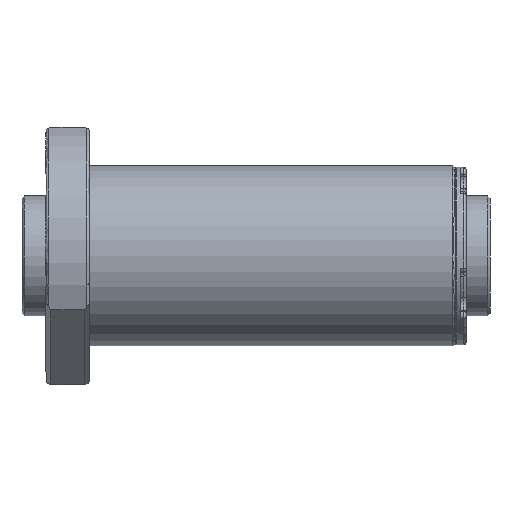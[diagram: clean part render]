
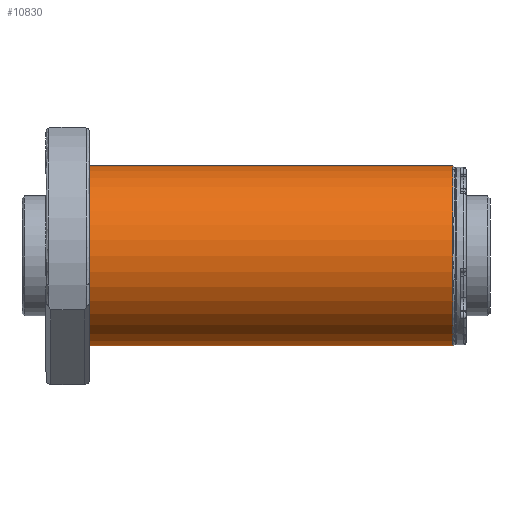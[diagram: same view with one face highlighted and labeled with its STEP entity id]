
A CAD part, front view. The second image highlights one B-rep face of the part: STEP entity #10830.
In plain terms, the highlighted cylindrical face has radius 37.5 mm (diameter 75 mm), a partial arc.
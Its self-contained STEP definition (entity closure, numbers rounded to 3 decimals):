
#6 = CARTESIAN_POINT ( 'NONE',  ( 18., 0., 37.5 ) ) ;
#628 = VERTEX_POINT ( 'NONE', #9405 ) ;
#798 = CYLINDRICAL_SURFACE ( 'NONE', #10399, 37.5 ) ;
#844 = CARTESIAN_POINT ( 'NONE',  ( 18., 0., -37.5 ) ) ;
#1331 = CARTESIAN_POINT ( 'NONE',  ( 18., 0., 37.5 ) ) ;
#1339 = VECTOR ( 'NONE', #3600, 1000. ) ;
#1673 = EDGE_CURVE ( 'NONE', #628, #5167, #10061, .T. ) ;
#1695 = LINE ( 'NONE', #1331, #1339 ) ;
#1731 = ORIENTED_EDGE ( 'NONE', *, *, #10212, .F. ) ;
#1823 = LINE ( 'NONE', #844, #12538 ) ;
#1984 = DIRECTION ( 'NONE',  ( 0., 0., -1. ) ) ;
#2387 = EDGE_CURVE ( 'NONE', #12602, #4972, #6731, .T. ) ;
#2411 = DIRECTION ( 'NONE',  ( -1., 0., 0. ) ) ;
#2557 = EDGE_CURVE ( 'NONE', #4972, #628, #1823, .T. ) ;
#2960 = DIRECTION ( 'NONE',  ( 0., 0., -1. ) ) ;
#3600 = DIRECTION ( 'NONE',  ( 1., 0., 0. ) ) ;
#4370 = ORIENTED_EDGE ( 'NONE', *, *, #1673, .T. ) ;
#4439 = ORIENTED_EDGE ( 'NONE', *, *, #2557, .T. ) ;
#4650 = DIRECTION ( 'NONE',  ( 0., 0., -1. ) ) ;
#4850 = FACE_OUTER_BOUND ( 'NONE', #7020, .T. ) ;
#4972 = VERTEX_POINT ( 'NONE', #13277 ) ;
#5167 = VERTEX_POINT ( 'NONE', #9663 ) ;
#6269 = AXIS2_PLACEMENT_3D ( 'NONE', #12452, #2411, #4650 ) ;
#6333 = DIRECTION ( 'NONE',  ( 1., 0., 0. ) ) ;
#6495 = CARTESIAN_POINT ( 'NONE',  ( 18., 0., 0. ) ) ;
#6731 = CIRCLE ( 'NONE', #10994, 37.5 ) ;
#7020 = EDGE_LOOP ( 'NONE', ( #1731, #9968, #4439, #4370 ) ) ;
#8577 = DIRECTION ( 'NONE',  ( 1., 0., 0. ) ) ;
#9405 = CARTESIAN_POINT ( 'NONE',  ( 169.5, 0., -37.5 ) ) ;
#9663 = CARTESIAN_POINT ( 'NONE',  ( 169.5, 0., 37.5 ) ) ;
#9968 = ORIENTED_EDGE ( 'NONE', *, *, #2387, .T. ) ;
#10061 = CIRCLE ( 'NONE', #6269, 37.5 ) ;
#10212 = EDGE_CURVE ( 'NONE', #12602, #5167, #1695, .T. ) ;
#10399 = AXIS2_PLACEMENT_3D ( 'NONE', #6495, #8577, #1984 ) ;
#10547 = CARTESIAN_POINT ( 'NONE',  ( 18., 0., 0. ) ) ;
#10830 = ADVANCED_FACE ( 'NONE', ( #4850 ), #798, .T. ) ;
#10994 = AXIS2_PLACEMENT_3D ( 'NONE', #10547, #6333, #2960 ) ;
#11880 = DIRECTION ( 'NONE',  ( 1., 0., 0. ) ) ;
#12452 = CARTESIAN_POINT ( 'NONE',  ( 169.5, 0., 0. ) ) ;
#12538 = VECTOR ( 'NONE', #11880, 1000. ) ;
#12602 = VERTEX_POINT ( 'NONE', #6 ) ;
#13277 = CARTESIAN_POINT ( 'NONE',  ( 18., 0., -37.5 ) ) ;
